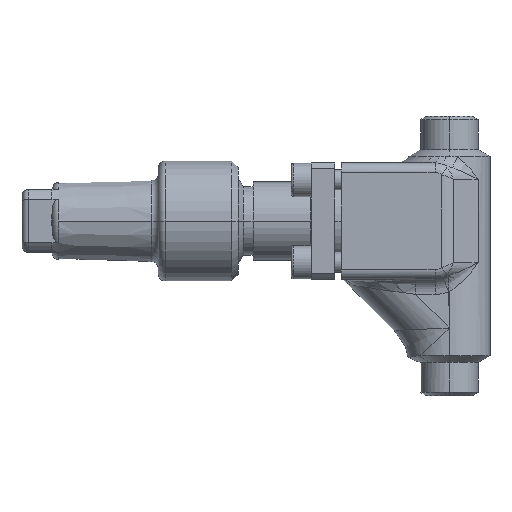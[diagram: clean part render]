
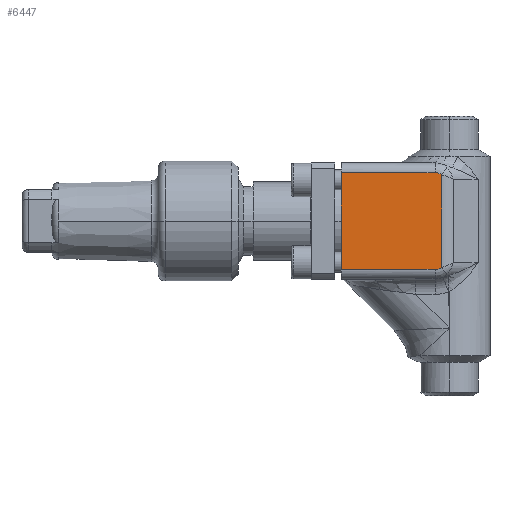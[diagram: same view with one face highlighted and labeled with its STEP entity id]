
A CAD part, left-side view. The second image highlights one B-rep face of the part: STEP entity #6447.
In plain terms, the highlighted planar face has unit normal (-1, 0, 0).
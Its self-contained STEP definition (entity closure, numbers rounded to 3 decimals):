
#16553 = LINE ( 'NONE', #16554, #16558 ) ;
#16554 = CARTESIAN_POINT ( 'NONE',  ( -17.5, 32.5, -3. ) ) ;
#16558 = VECTOR ( 'NONE', #16559, 1000. ) ;
#16559 = DIRECTION ( 'NONE',  ( 0., 1., 0. ) ) ;
#16649 = EDGE_CURVE ( 'NONE', #13396, #4306, #13951, .T. ) ;
#1036 =( BOUNDED_CURVE ( )  B_SPLINE_CURVE ( 3, ( #1037, #1038, #1039, #1040 ),
 .UNSPECIFIED., .F., .F. ) 
 B_SPLINE_CURVE_WITH_KNOTS ( ( 4, 4 ),
 ( 1.571, 2.356 ),
 .UNSPECIFIED. ) 
 CURVE ( )  GEOMETRIC_REPRESENTATION_ITEM ( )  RATIONAL_B_SPLINE_CURVE ( ( 1., 0.949, 0.949, 1. ) ) 
 REPRESENTATION_ITEM ( '' )  );
#1037 = CARTESIAN_POINT ( 'NONE',  ( -17.5, 4.318, -32. ) ) ;
#1038 = CARTESIAN_POINT ( 'NONE',  ( -17.5, 3.557, -32. ) ) ;
#1039 = CARTESIAN_POINT ( 'NONE',  ( -17.5, 2.855, -31.794 ) ) ;
#1040 = CARTESIAN_POINT ( 'NONE',  ( -17.5, 2.318, -31.414 ) ) ;
#2124 = ORIENTED_EDGE ( 'NONE', *, *, #5144, .F. ) ;
#2550 = LINE ( 'NONE', #2551, #2552 ) ;
#2551 = CARTESIAN_POINT ( 'NONE',  ( -17.5, 0.247, -32. ) ) ;
#2552 = VECTOR ( 'NONE', #2553, 1000. ) ;
#2553 = DIRECTION ( 'NONE',  ( 0., -1., 0. ) ) ;
#2639 = EDGE_CURVE ( 'NONE', #14041, #13819, #2550, .T. ) ;
#2809 = ORIENTED_EDGE ( 'NONE', *, *, #2639, .T. ) ;
#4090 = VERTEX_POINT ( 'NONE', #5173 ) ;
#4144 = ORIENTED_EDGE ( 'NONE', *, *, #16649, .T. ) ;
#4306 = VERTEX_POINT ( 'NONE', #7626 ) ;
#4469 = ORIENTED_EDGE ( 'NONE', *, *, #14786, .T. ) ;
#5144 = EDGE_CURVE ( 'NONE', #14041, #14444, #9221, .T. ) ;
#5172 = CARTESIAN_POINT ( 'NONE',  ( -17.5, 2.318, -31.414 ) ) ;
#5173 = CARTESIAN_POINT ( 'NONE',  ( -17.5, 4.318, -3. ) ) ;
#6248 = EDGE_LOOP ( 'NONE', ( #2809, #12230, #4144, #4469, #14443, #2124 ) ) ;
#6447 = ADVANCED_FACE ( 'NONE', ( #11717 ), #11718, .T. ) ;
#7626 = CARTESIAN_POINT ( 'NONE',  ( -17.5, 2.318, -3.586 ) ) ;
#7830 = CARTESIAN_POINT ( 'NONE',  ( -17.5, 4.318, -32. ) ) ;
#8122 = CARTESIAN_POINT ( 'NONE',  ( -17.5, 32.5, -32. ) ) ;
#8898 = CARTESIAN_POINT ( 'NONE',  ( -17.5, 32.5, -3. ) ) ;
#9221 = LINE ( 'NONE', #9226, #9227 ) ;
#9226 = CARTESIAN_POINT ( 'NONE',  ( -17.5, 32.5, -35. ) ) ;
#9227 = VECTOR ( 'NONE', #9228, 1000. ) ;
#9228 = DIRECTION ( 'NONE',  ( 0., 0., 1. ) ) ;
#10050 = EDGE_CURVE ( 'NONE', #4090, #14444, #16553, .T. ) ;
#10436 =( BOUNDED_CURVE ( )  B_SPLINE_CURVE ( 3, ( #10437, #10438, #10439, #10440 ),
 .UNSPECIFIED., .F., .T. ) 
 B_SPLINE_CURVE_WITH_KNOTS ( ( 4, 4 ),
 ( 0.785, 1.571 ),
 .UNSPECIFIED. ) 
 CURVE ( )  GEOMETRIC_REPRESENTATION_ITEM ( )  RATIONAL_B_SPLINE_CURVE ( ( 1., 0.949, 0.949, 1. ) ) 
 REPRESENTATION_ITEM ( '' )  );
#10437 = CARTESIAN_POINT ( 'NONE',  ( -17.5, 2.318, -3.586 ) ) ;
#10438 = CARTESIAN_POINT ( 'NONE',  ( -17.5, 2.855, -3.206 ) ) ;
#10439 = CARTESIAN_POINT ( 'NONE',  ( -17.5, 3.557, -3. ) ) ;
#10440 = CARTESIAN_POINT ( 'NONE',  ( -17.5, 4.318, -3. ) ) ;
#11365 = EDGE_CURVE ( 'NONE', #13819, #13396, #1036, .T. ) ;
#11717 = FACE_OUTER_BOUND ( 'NONE', #6248, .T. ) ;
#11718 = PLANE ( 'NONE',  #11719 ) ;
#11719 = AXIS2_PLACEMENT_3D ( 'NONE', #11720, #11721, #11722 ) ;
#11720 = CARTESIAN_POINT ( 'NONE',  ( -17.5, 32.5, -35. ) ) ;
#11721 = DIRECTION ( 'NONE',  ( -1., 0., 0. ) ) ;
#11722 = DIRECTION ( 'NONE',  ( 0., -1., 0. ) ) ;
#12230 = ORIENTED_EDGE ( 'NONE', *, *, #11365, .T. ) ;
#13396 = VERTEX_POINT ( 'NONE', #5172 ) ;
#13819 = VERTEX_POINT ( 'NONE', #7830 ) ;
#13951 = LINE ( 'NONE', #13952, #13953 ) ;
#13952 = CARTESIAN_POINT ( 'NONE',  ( -17.5, 2.318, -35. ) ) ;
#13953 = VECTOR ( 'NONE', #13954, 1000. ) ;
#13954 = DIRECTION ( 'NONE',  ( 0., 0., 1. ) ) ;
#14041 = VERTEX_POINT ( 'NONE', #8122 ) ;
#14443 = ORIENTED_EDGE ( 'NONE', *, *, #10050, .T. ) ;
#14444 = VERTEX_POINT ( 'NONE', #8898 ) ;
#14786 = EDGE_CURVE ( 'NONE', #4306, #4090, #10436, .T. ) ;
